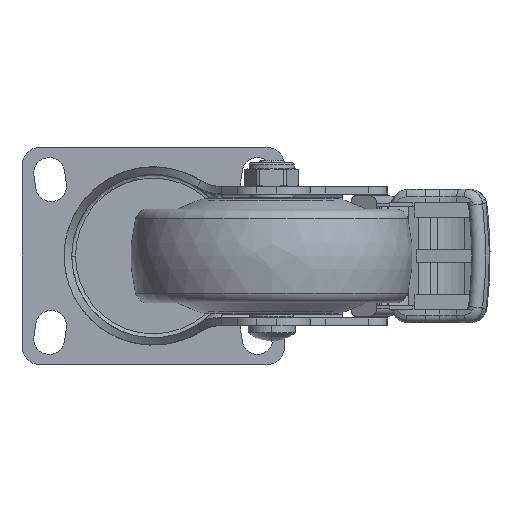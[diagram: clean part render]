
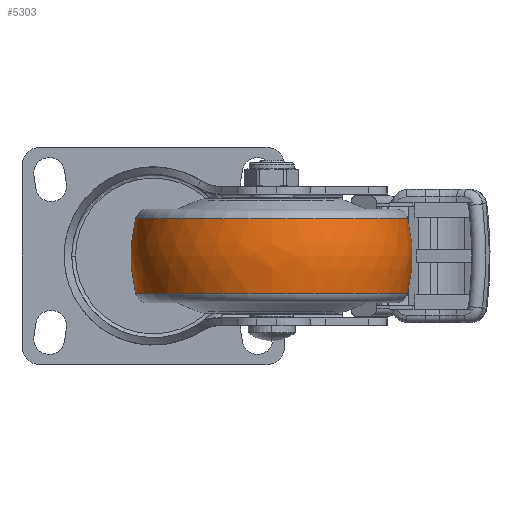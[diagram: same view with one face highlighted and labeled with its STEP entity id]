
A CAD part, front view. The second image highlights one B-rep face of the part: STEP entity #5303.
In plain terms, the highlighted free-form (B-spline) face has degree [3, 3] with [7, 4] control points.
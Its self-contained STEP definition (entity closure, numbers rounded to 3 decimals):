
#4841=CARTESIAN_POINT('',(0.,-2.5,0.));
#4842=DIRECTION('',(0.,0.,1.));
#4843=DIRECTION('',(0.247,0.969,0.));
#4844=AXIS2_PLACEMENT_3D('',#4841,#4842,#4843);
#4846=CARTESIAN_POINT('',(0.,2.5,0.));
#4847=DIRECTION('',(0.,0.,-1.));
#4848=DIRECTION('',(0.247,-0.969,0.));
#4849=AXIS2_PLACEMENT_3D('',#4846,#4847,#4848);
#4851=CARTESIAN_POINT('',(9.863,0.,0.));
#4852=DIRECTION('',(-1.,0.,0.));
#4853=DIRECTION('',(0.,1.,0.));
#4854=AXIS2_PLACEMENT_3D('',#4851,#4852,#4853);
#4866=CARTESIAN_POINT('',(-9.863,0.,0.));
#4867=DIRECTION('',(-1.,0.,0.));
#4868=DIRECTION('',(0.,1.,0.));
#4869=AXIS2_PLACEMENT_3D('',#4866,#4867,#4868);
#5146=CARTESIAN_POINT('',(9.863,36.265,0.));
#5147=CARTESIAN_POINT('',(-9.863,36.265,0.));
#5148=VERTEX_POINT('',#5146);
#5149=VERTEX_POINT('',#5147);
#5186=CARTESIAN_POINT('',(9.863,-36.265,0.));
#5187=CARTESIAN_POINT('',(-9.863,-36.265,0.));
#5188=VERTEX_POINT('',#5186);
#5189=VERTEX_POINT('',#5187);
#5266=CARTESIAN_POINT('',(-10.249,-36.093,
2.271));
#5267=CARTESIAN_POINT('',(-3.494,-37.88,
2.383));
#5268=CARTESIAN_POINT('',(3.494,-37.88,2.383));
#5269=CARTESIAN_POINT('',(10.249,-36.093,2.271));
#5270=CARTESIAN_POINT('',(-10.249,-37.491,
-19.941));
#5271=CARTESIAN_POINT('',(-3.494,-39.347,
-20.928));
#5272=CARTESIAN_POINT('',(3.494,-39.347,
-20.928));
#5273=CARTESIAN_POINT('',(10.249,-37.491,
-19.941));
#5274=CARTESIAN_POINT('',(-10.249,-22.256,
-36.165));
#5275=CARTESIAN_POINT('',(-3.494,-23.358,
-37.955));
#5276=CARTESIAN_POINT('',(3.494,-23.358,
-37.955));
#5277=CARTESIAN_POINT('',(10.249,-22.256,
-36.165));
#5278=CARTESIAN_POINT('',(-10.249,0.,-36.165));
#5279=CARTESIAN_POINT('',(-3.494,0.,-37.955));
#5280=CARTESIAN_POINT('',(3.494,0.,-37.955));
#5281=CARTESIAN_POINT('',(10.249,0.,-36.165));
#5282=CARTESIAN_POINT('',(-10.249,22.256,
-36.165));
#5283=CARTESIAN_POINT('',(-3.494,23.358,
-37.955));
#5284=CARTESIAN_POINT('',(3.494,23.358,-37.955));
#5285=CARTESIAN_POINT('',(10.249,22.256,-36.165));
#5286=CARTESIAN_POINT('',(-10.249,37.491,
-19.941));
#5287=CARTESIAN_POINT('',(-3.494,39.347,
-20.928));
#5288=CARTESIAN_POINT('',(3.494,39.347,-20.928));
#5289=CARTESIAN_POINT('',(10.249,37.491,-19.941));
#5290=CARTESIAN_POINT('',(-10.249,36.093,2.271));
#5291=CARTESIAN_POINT('',(-3.494,37.88,2.383));
#5292=CARTESIAN_POINT('',(3.494,37.88,2.383));
#5293=CARTESIAN_POINT('',(10.249,36.093,2.271));
#5294=(BOUNDED_SURFACE()B_SPLINE_SURFACE(3,3,((#5266,#5267,#5268,#5269),(#5270,
#5271,#5272,#5273),(#5274,#5275,#5276,#5277),(#5278,#5279,#5280,#5281),(#5282,
#5283,#5284,#5285),(#5286,#5287,#5288,#5289),(#5290,#5291,#5292,#5293)),
.UNSPECIFIED.,.F.,.F.,.F.)B_SPLINE_SURFACE_WITH_KNOTS((4,3,4),(4,4),(0.,1.,
2.),(0.,1.),.UNSPECIFIED.)GEOMETRIC_REPRESENTATION_ITEM()RATIONAL_B_SPLINE_SURFACE(((1.207,1.181,1.181,1.207),(
0.953,0.932,0.932,0.953),(
0.953,0.932,0.932,0.953),(
1.207,1.181,1.181,1.207),(
0.953,0.932,0.932,0.953),(
0.953,0.932,0.932,0.953),(
1.207,1.181,1.181,1.207)))REPRESENTATION_ITEM('')SURFACE());
#5295=ORIENTED_EDGE('',*,*,#5255,.T.);
#5297=ORIENTED_EDGE('',*,*,#5296,.T.);
#5298=ORIENTED_EDGE('',*,*,#5259,.F.);
#5300=ORIENTED_EDGE('',*,*,#5299,.F.);
#5301=EDGE_LOOP('',(#5295,#5297,#5298,#5300));
#5302=FACE_OUTER_BOUND('',#5301,.F.);
#4845=CIRCLE('',#4844,40.);
#4850=CIRCLE('',#4849,40.);
#4855=CIRCLE('',#4854,36.265);
#4870=CIRCLE('',#4869,36.265);
#5255=EDGE_CURVE('',#5148,#5149,#4845,.T.);
#5259=EDGE_CURVE('',#5188,#5189,#4850,.T.);
#5296=EDGE_CURVE('',#5149,#5189,#4870,.T.);
#5299=EDGE_CURVE('',#5148,#5188,#4855,.T.);
#5303=ADVANCED_FACE('',(#5302),#5294,.T.);
